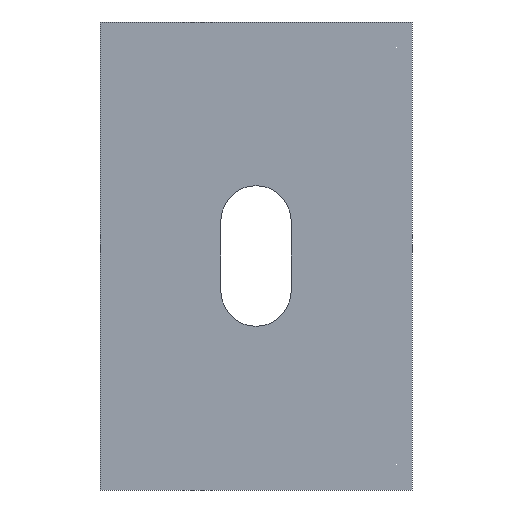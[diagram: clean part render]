
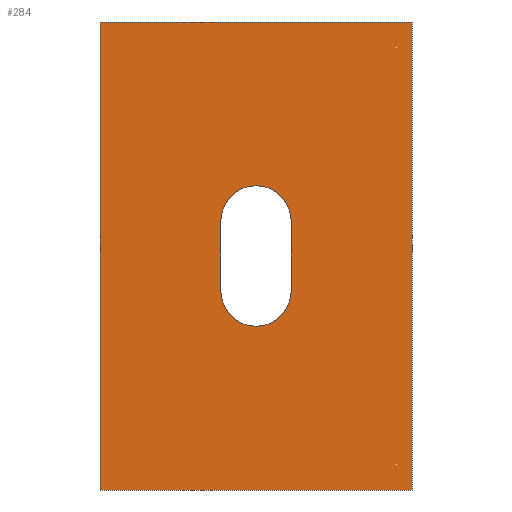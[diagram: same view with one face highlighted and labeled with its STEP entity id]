
A CAD part, left-side view. The second image highlights one B-rep face of the part: STEP entity #284.
In plain terms, the highlighted planar face has unit normal (-1, 0, 0).
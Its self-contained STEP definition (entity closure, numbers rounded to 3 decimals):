
#22 = VERTEX_POINT('',#23);
#23 = CARTESIAN_POINT('',(966.692,-20.,1170.));
#32 = PLANE('',#33);
#33 = AXIS2_PLACEMENT_3D('',#34,#35,#36);
#34 = CARTESIAN_POINT('',(966.692,-20.,1170.));
#35 = DIRECTION('',(0.,0.,1.));
#36 = DIRECTION('',(0.,1.,0.));
#44 = PLANE('',#45);
#45 = AXIS2_PLACEMENT_3D('',#46,#47,#48);
#46 = CARTESIAN_POINT('',(966.692,-20.,1230.));
#47 = DIRECTION('',(-0.,1.,0.));
#48 = DIRECTION('',(0.,0.,-1.));
#85 = VERTEX_POINT('',#86);
#86 = CARTESIAN_POINT('',(966.692,20.,1170.));
#100 = PLANE('',#101);
#101 = AXIS2_PLACEMENT_3D('',#102,#103,#104);
#102 = CARTESIAN_POINT('',(966.692,20.,1170.));
#103 = DIRECTION('',(0.,-1.,0.));
#104 = DIRECTION('',(0.,0.,1.));
#112 = EDGE_CURVE('',#22,#85,#113,.T.);
#113 = SURFACE_CURVE('',#114,(#118,#125),.PCURVE_S1.);
#114 = LINE('',#115,#116);
#115 = CARTESIAN_POINT('',(966.692,-20.,1170.));
#116 = VECTOR('',#117,1.);
#117 = DIRECTION('',(0.,1.,0.));
#118 = PCURVE('',#32,#119);
#119 = DEFINITIONAL_REPRESENTATION('',(#120),#124);
#120 = LINE('',#121,#122);
#121 = CARTESIAN_POINT('',(0.,0.));
#122 = VECTOR('',#123,1.);
#123 = DIRECTION('',(1.,0.));
#124 = ( GEOMETRIC_REPRESENTATION_CONTEXT(2) 
PARAMETRIC_REPRESENTATION_CONTEXT() REPRESENTATION_CONTEXT('2D SPACE',''
  ) );
#125 = PCURVE('',#126,#131);
#126 = PLANE('',#127);
#127 = AXIS2_PLACEMENT_3D('',#128,#129,#130);
#128 = CARTESIAN_POINT('',(966.692,0.,1200.));
#129 = DIRECTION('',(1.,0.,0.));
#130 = DIRECTION('',(-0.,0.,1.));
#131 = DEFINITIONAL_REPRESENTATION('',(#132),#136);
#132 = LINE('',#133,#134);
#133 = CARTESIAN_POINT('',(-30.,20.));
#134 = VECTOR('',#135,1.);
#135 = DIRECTION('',(0.,-1.));
#136 = ( GEOMETRIC_REPRESENTATION_CONTEXT(2) 
PARAMETRIC_REPRESENTATION_CONTEXT() REPRESENTATION_CONTEXT('2D SPACE',''
  ) );
#142 = VERTEX_POINT('',#143);
#143 = CARTESIAN_POINT('',(966.692,-20.,1230.));
#159 = PLANE('',#160);
#160 = AXIS2_PLACEMENT_3D('',#161,#162,#163);
#161 = CARTESIAN_POINT('',(966.692,20.,1230.));
#162 = DIRECTION('',(0.,0.,-1.));
#163 = DIRECTION('',(0.,-1.,0.));
#193 = EDGE_CURVE('',#142,#22,#194,.T.);
#194 = SURFACE_CURVE('',#195,(#199,#206),.PCURVE_S1.);
#195 = LINE('',#196,#197);
#196 = CARTESIAN_POINT('',(966.692,-20.,1230.));
#197 = VECTOR('',#198,1.);
#198 = DIRECTION('',(0.,0.,-1.));
#199 = PCURVE('',#44,#200);
#200 = DEFINITIONAL_REPRESENTATION('',(#201),#205);
#201 = LINE('',#202,#203);
#202 = CARTESIAN_POINT('',(0.,0.));
#203 = VECTOR('',#204,1.);
#204 = DIRECTION('',(1.,0.));
#205 = ( GEOMETRIC_REPRESENTATION_CONTEXT(2) 
PARAMETRIC_REPRESENTATION_CONTEXT() REPRESENTATION_CONTEXT('2D SPACE',''
  ) );
#206 = PCURVE('',#126,#207);
#207 = DEFINITIONAL_REPRESENTATION('',(#208),#212);
#208 = LINE('',#209,#210);
#209 = CARTESIAN_POINT('',(30.,20.));
#210 = VECTOR('',#211,1.);
#211 = DIRECTION('',(-1.,0.));
#212 = ( GEOMETRIC_REPRESENTATION_CONTEXT(2) 
PARAMETRIC_REPRESENTATION_CONTEXT() REPRESENTATION_CONTEXT('2D SPACE',''
  ) );
#242 = VERTEX_POINT('',#243);
#243 = CARTESIAN_POINT('',(966.692,20.,1230.));
#264 = EDGE_CURVE('',#85,#242,#265,.T.);
#265 = SURFACE_CURVE('',#266,(#270,#277),.PCURVE_S1.);
#266 = LINE('',#267,#268);
#267 = CARTESIAN_POINT('',(966.692,20.,1170.));
#268 = VECTOR('',#269,1.);
#269 = DIRECTION('',(0.,0.,1.));
#270 = PCURVE('',#100,#271);
#271 = DEFINITIONAL_REPRESENTATION('',(#272),#276);
#272 = LINE('',#273,#274);
#273 = CARTESIAN_POINT('',(0.,0.));
#274 = VECTOR('',#275,1.);
#275 = DIRECTION('',(1.,0.));
#276 = ( GEOMETRIC_REPRESENTATION_CONTEXT(2) 
PARAMETRIC_REPRESENTATION_CONTEXT() REPRESENTATION_CONTEXT('2D SPACE',''
  ) );
#277 = PCURVE('',#126,#278);
#278 = DEFINITIONAL_REPRESENTATION('',(#279),#283);
#279 = LINE('',#280,#281);
#280 = CARTESIAN_POINT('',(-30.,-20.));
#281 = VECTOR('',#282,1.);
#282 = DIRECTION('',(1.,0.));
#283 = ( GEOMETRIC_REPRESENTATION_CONTEXT(2) 
PARAMETRIC_REPRESENTATION_CONTEXT() REPRESENTATION_CONTEXT('2D SPACE',''
  ) );
#284 = ADVANCED_FACE('',(#285,#311),#126,.F.);
#285 = FACE_BOUND('',#286,.F.);
#286 = EDGE_LOOP('',(#287,#288,#289,#310));
#287 = ORIENTED_EDGE('',*,*,#112,.T.);
#288 = ORIENTED_EDGE('',*,*,#264,.T.);
#289 = ORIENTED_EDGE('',*,*,#290,.T.);
#290 = EDGE_CURVE('',#242,#142,#291,.T.);
#291 = SURFACE_CURVE('',#292,(#296,#303),.PCURVE_S1.);
#292 = LINE('',#293,#294);
#293 = CARTESIAN_POINT('',(966.692,20.,1230.));
#294 = VECTOR('',#295,1.);
#295 = DIRECTION('',(0.,-1.,0.));
#296 = PCURVE('',#126,#297);
#297 = DEFINITIONAL_REPRESENTATION('',(#298),#302);
#298 = LINE('',#299,#300);
#299 = CARTESIAN_POINT('',(30.,-20.));
#300 = VECTOR('',#301,1.);
#301 = DIRECTION('',(0.,1.));
#302 = ( GEOMETRIC_REPRESENTATION_CONTEXT(2) 
PARAMETRIC_REPRESENTATION_CONTEXT() REPRESENTATION_CONTEXT('2D SPACE',''
  ) );
#303 = PCURVE('',#159,#304);
#304 = DEFINITIONAL_REPRESENTATION('',(#305),#309);
#305 = LINE('',#306,#307);
#306 = CARTESIAN_POINT('',(0.,-0.));
#307 = VECTOR('',#308,1.);
#308 = DIRECTION('',(1.,0.));
#309 = ( GEOMETRIC_REPRESENTATION_CONTEXT(2) 
PARAMETRIC_REPRESENTATION_CONTEXT() REPRESENTATION_CONTEXT('2D SPACE',''
  ) );
#310 = ORIENTED_EDGE('',*,*,#193,.T.);
#311 = FACE_BOUND('',#312,.F.);
#312 = EDGE_LOOP('',(#313,#343,#376,#404));
#313 = ORIENTED_EDGE('',*,*,#314,.F.);
#314 = EDGE_CURVE('',#315,#317,#319,.T.);
#315 = VERTEX_POINT('',#316);
#316 = CARTESIAN_POINT('',(966.692,-4.5,1204.5));
#317 = VERTEX_POINT('',#318);
#318 = CARTESIAN_POINT('',(966.692,-4.5,1195.5));
#319 = SURFACE_CURVE('',#320,(#324,#331),.PCURVE_S1.);
#320 = LINE('',#321,#322);
#321 = CARTESIAN_POINT('',(966.692,-4.5,1197.75));
#322 = VECTOR('',#323,1.);
#323 = DIRECTION('',(0.,0.,-1.));
#324 = PCURVE('',#126,#325);
#325 = DEFINITIONAL_REPRESENTATION('',(#326),#330);
#326 = LINE('',#327,#328);
#327 = CARTESIAN_POINT('',(-2.25,4.5));
#328 = VECTOR('',#329,1.);
#329 = DIRECTION('',(-1.,0.));
#330 = ( GEOMETRIC_REPRESENTATION_CONTEXT(2) 
PARAMETRIC_REPRESENTATION_CONTEXT() REPRESENTATION_CONTEXT('2D SPACE',''
  ) );
#331 = PCURVE('',#332,#337);
#332 = PLANE('',#333);
#333 = AXIS2_PLACEMENT_3D('',#334,#335,#336);
#334 = CARTESIAN_POINT('',(965.692,-4.5,1195.5));
#335 = DIRECTION('',(0.,-1.,0.));
#336 = DIRECTION('',(0.,0.,1.));
#337 = DEFINITIONAL_REPRESENTATION('',(#338),#342);
#338 = LINE('',#339,#340);
#339 = CARTESIAN_POINT('',(2.25,-1.));
#340 = VECTOR('',#341,1.);
#341 = DIRECTION('',(-1.,-0.));
#342 = ( GEOMETRIC_REPRESENTATION_CONTEXT(2) 
PARAMETRIC_REPRESENTATION_CONTEXT() REPRESENTATION_CONTEXT('2D SPACE',''
  ) );
#343 = ORIENTED_EDGE('',*,*,#344,.T.);
#344 = EDGE_CURVE('',#315,#345,#347,.T.);
#345 = VERTEX_POINT('',#346);
#346 = CARTESIAN_POINT('',(966.692,4.5,1204.5));
#347 = SURFACE_CURVE('',#348,(#353,#364),.PCURVE_S1.);
#348 = CIRCLE('',#349,4.5);
#349 = AXIS2_PLACEMENT_3D('',#350,#351,#352);
#350 = CARTESIAN_POINT('',(966.692,0.,1204.5
    ));
#351 = DIRECTION('',(-1.,0.,0.));
#352 = DIRECTION('',(0.,-1.,0.));
#353 = PCURVE('',#126,#354);
#354 = DEFINITIONAL_REPRESENTATION('',(#355),#363);
#355 = ( BOUNDED_CURVE() B_SPLINE_CURVE(2,(#356,#357,#358,#359,#360,#361
,#362),.UNSPECIFIED.,.T.,.F.) B_SPLINE_CURVE_WITH_KNOTS((1,2,2,2,2,1),(
    -2.094,0.,2.094,4.189,6.283,
8.378),.UNSPECIFIED.) CURVE() GEOMETRIC_REPRESENTATION_ITEM() 
RATIONAL_B_SPLINE_CURVE((1.,0.5,1.,0.5,1.,0.5,1.)) REPRESENTATION_ITEM(
  '') );
#356 = CARTESIAN_POINT('',(4.5,4.5));
#357 = CARTESIAN_POINT('',(12.294,4.5));
#358 = CARTESIAN_POINT('',(8.397,-2.25));
#359 = CARTESIAN_POINT('',(4.5,-9.));
#360 = CARTESIAN_POINT('',(0.603,-2.25));
#361 = CARTESIAN_POINT('',(-3.294,4.5));
#362 = CARTESIAN_POINT('',(4.5,4.5));
#363 = ( GEOMETRIC_REPRESENTATION_CONTEXT(2) 
PARAMETRIC_REPRESENTATION_CONTEXT() REPRESENTATION_CONTEXT('2D SPACE',''
  ) );
#364 = PCURVE('',#365,#370);
#365 = CYLINDRICAL_SURFACE('',#366,4.5);
#366 = AXIS2_PLACEMENT_3D('',#367,#368,#369);
#367 = CARTESIAN_POINT('',(965.692,0.,1204.5
    ));
#368 = DIRECTION('',(-1.,0.,0.));
#369 = DIRECTION('',(0.,-1.,0.));
#370 = DEFINITIONAL_REPRESENTATION('',(#371),#375);
#371 = LINE('',#372,#373);
#372 = CARTESIAN_POINT('',(0.,-1.));
#373 = VECTOR('',#374,1.);
#374 = DIRECTION('',(1.,0.));
#375 = ( GEOMETRIC_REPRESENTATION_CONTEXT(2) 
PARAMETRIC_REPRESENTATION_CONTEXT() REPRESENTATION_CONTEXT('2D SPACE',''
  ) );
#376 = ORIENTED_EDGE('',*,*,#377,.F.);
#377 = EDGE_CURVE('',#378,#345,#380,.T.);
#378 = VERTEX_POINT('',#379);
#379 = CARTESIAN_POINT('',(966.692,4.5,1195.5));
#380 = SURFACE_CURVE('',#381,(#385,#392),.PCURVE_S1.);
#381 = LINE('',#382,#383);
#382 = CARTESIAN_POINT('',(966.692,4.5,1202.25));
#383 = VECTOR('',#384,1.);
#384 = DIRECTION('',(-0.,0.,1.));
#385 = PCURVE('',#126,#386);
#386 = DEFINITIONAL_REPRESENTATION('',(#387),#391);
#387 = LINE('',#388,#389);
#388 = CARTESIAN_POINT('',(2.25,-4.5));
#389 = VECTOR('',#390,1.);
#390 = DIRECTION('',(1.,0.));
#391 = ( GEOMETRIC_REPRESENTATION_CONTEXT(2) 
PARAMETRIC_REPRESENTATION_CONTEXT() REPRESENTATION_CONTEXT('2D SPACE',''
  ) );
#392 = PCURVE('',#393,#398);
#393 = PLANE('',#394);
#394 = AXIS2_PLACEMENT_3D('',#395,#396,#397);
#395 = CARTESIAN_POINT('',(965.692,4.5,1204.5));
#396 = DIRECTION('',(0.,1.,0.));
#397 = DIRECTION('',(0.,0.,-1.));
#398 = DEFINITIONAL_REPRESENTATION('',(#399),#403);
#399 = LINE('',#400,#401);
#400 = CARTESIAN_POINT('',(2.25,-1.));
#401 = VECTOR('',#402,1.);
#402 = DIRECTION('',(-1.,0.));
#403 = ( GEOMETRIC_REPRESENTATION_CONTEXT(2) 
PARAMETRIC_REPRESENTATION_CONTEXT() REPRESENTATION_CONTEXT('2D SPACE',''
  ) );
#404 = ORIENTED_EDGE('',*,*,#405,.T.);
#405 = EDGE_CURVE('',#378,#317,#406,.T.);
#406 = SURFACE_CURVE('',#407,(#412,#423),.PCURVE_S1.);
#407 = CIRCLE('',#408,4.5);
#408 = AXIS2_PLACEMENT_3D('',#409,#410,#411);
#409 = CARTESIAN_POINT('',(966.692,0.,
    1195.5));
#410 = DIRECTION('',(-1.,0.,-0.));
#411 = DIRECTION('',(0.,1.,0.));
#412 = PCURVE('',#126,#413);
#413 = DEFINITIONAL_REPRESENTATION('',(#414),#422);
#414 = ( BOUNDED_CURVE() B_SPLINE_CURVE(2,(#415,#416,#417,#418,#419,#420
,#421),.UNSPECIFIED.,.T.,.F.) B_SPLINE_CURVE_WITH_KNOTS((1,2,2,2,2,1),(
    -2.094,0.,2.094,4.189,6.283,
8.378),.UNSPECIFIED.) CURVE() GEOMETRIC_REPRESENTATION_ITEM() 
RATIONAL_B_SPLINE_CURVE((1.,0.5,1.,0.5,1.,0.5,1.)) REPRESENTATION_ITEM(
  '') );
#415 = CARTESIAN_POINT('',(-4.5,-4.5));
#416 = CARTESIAN_POINT('',(-12.294,-4.5));
#417 = CARTESIAN_POINT('',(-8.397,2.25));
#418 = CARTESIAN_POINT('',(-4.5,9.));
#419 = CARTESIAN_POINT('',(-0.603,2.25));
#420 = CARTESIAN_POINT('',(3.294,-4.5));
#421 = CARTESIAN_POINT('',(-4.5,-4.5));
#422 = ( GEOMETRIC_REPRESENTATION_CONTEXT(2) 
PARAMETRIC_REPRESENTATION_CONTEXT() REPRESENTATION_CONTEXT('2D SPACE',''
  ) );
#423 = PCURVE('',#424,#429);
#424 = CYLINDRICAL_SURFACE('',#425,4.5);
#425 = AXIS2_PLACEMENT_3D('',#426,#427,#428);
#426 = CARTESIAN_POINT('',(965.692,0.,
    1195.5));
#427 = DIRECTION('',(-1.,0.,-0.));
#428 = DIRECTION('',(0.,1.,0.));
#429 = DEFINITIONAL_REPRESENTATION('',(#430),#434);
#430 = LINE('',#431,#432);
#431 = CARTESIAN_POINT('',(0.,-1.));
#432 = VECTOR('',#433,1.);
#433 = DIRECTION('',(1.,0.));
#434 = ( GEOMETRIC_REPRESENTATION_CONTEXT(2) 
PARAMETRIC_REPRESENTATION_CONTEXT() REPRESENTATION_CONTEXT('2D SPACE',''
  ) );
